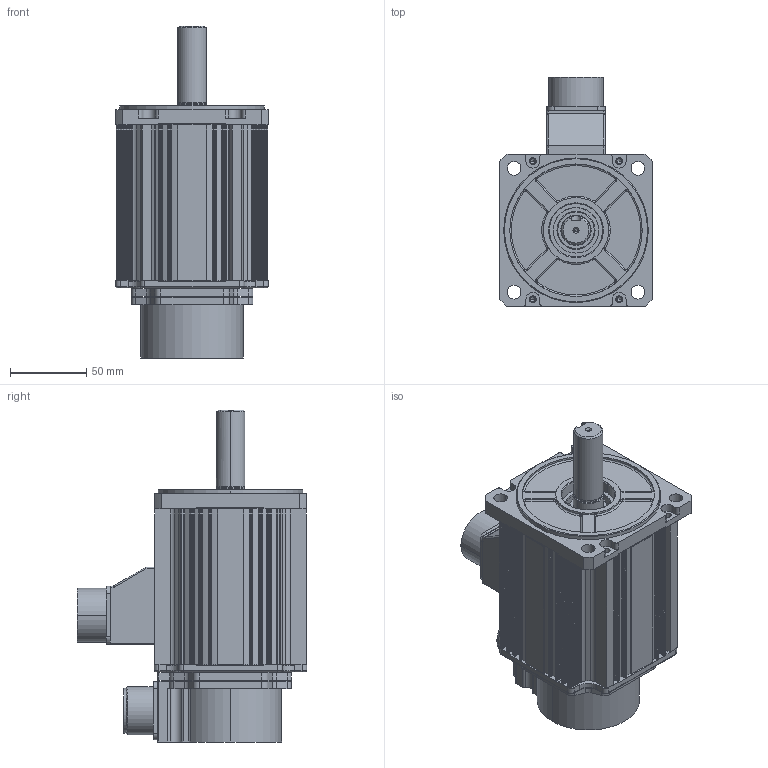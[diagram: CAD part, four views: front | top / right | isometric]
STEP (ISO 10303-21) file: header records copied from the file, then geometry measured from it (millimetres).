
FILE_DESCRIPTION (( 'STEP AP214' ), '1' );
FILE_NAME ('KANS-10B¡à1N2.STEP', '2026-09-12T00:27:05', ( '' ), ( '' ), 'SwSTEP 2.0', 'SolidWorks 2023', '' );
FILE_SCHEMA (( 'AUTOMOTIVE_DESIGN' ));
Length unit declared in the file: millimetre
Products named in the file (10): 10050579 CONNECTOR BOX_MS20; Ø19-KEY6X42; □100-102mm; □100 BRACKET_BR; □100 FLANGE; 1006002202 ENCODER COVER; MS3102A 20-29P; KANS-10B□1N2; 10060024(ENCODER COVER ADAPTOR,□100,□120); MS3102A 20_표준
Assembly tree (9 placements, depth 2):
  KANS-10B□1N2
    □100-102mm
    □100 FLANGE
    □100 BRACKET_BR
    10060024(ENCODER COVER ADAPTOR,□100,□120)
    1006002202 ENCODER COVER
    MS3102A 20-29P
    10050579 CONNECTOR BOX_MS20
    MS3102A 20_표준
    Ø19-KEY6X42
Bounding box: 100 x 150.55 x 218 mm (x, y, z)
Volume: 418063.1 mm3; surface area: 230917 mm2
Topology: 9 solids, 9 shells, 1787 faces, 4924 edges, 3182 vertices
Faces by surface type: plane 794, cylinder 788, torus 74, cone 64, bspline 35, sphere 32
Entity records: 58629 total; most frequent: CARTESIAN_POINT 11693, DIRECTION 10107, ORIENTED_EDGE 9728, EDGE_CURVE 4864, AXIS2_PLACEMENT_3D 3614, VERTEX_POINT 3174, LINE 2879, VECTOR 2879
